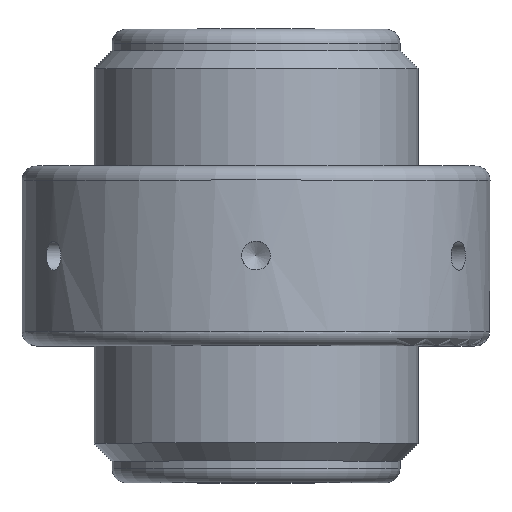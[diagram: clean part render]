
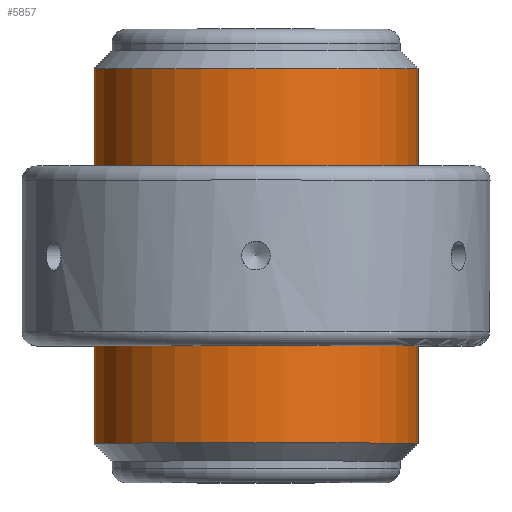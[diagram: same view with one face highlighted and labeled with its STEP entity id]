
A CAD part, top view. The second image highlights one B-rep face of the part: STEP entity #5857.
In plain terms, the highlighted cylindrical face has radius 22.5 mm (diameter 45 mm), a full revolution.
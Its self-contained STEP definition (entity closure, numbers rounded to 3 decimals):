
#39=CYLINDRICAL_SURFACE('',#6160,22.5);
#60=CIRCLE('',#6159,22.5);
#61=CIRCLE('',#6161,22.5);
#97=FACE_BOUND('',#1166,.T.);
#818=FACE_OUTER_BOUND('',#1165,.T.);
#1165=EDGE_LOOP('',(#4658));
#1166=EDGE_LOOP('',(#4659));
#2624=VERTEX_POINT('',#9124);
#2625=VERTEX_POINT('',#9127);
#3358=EDGE_CURVE('',#2624,#2624,#60,.T.);
#3359=EDGE_CURVE('',#2625,#2625,#61,.T.);
#4658=ORIENTED_EDGE('',*,*,#3358,.T.);
#4659=ORIENTED_EDGE('',*,*,#3359,.F.);
#5857=ADVANCED_FACE('',(#818,#97),#39,.T.);
#6159=AXIS2_PLACEMENT_3D('',#9125,#6675,#6676);
#6160=AXIS2_PLACEMENT_3D('',#9126,#6677,#6678);
#6161=AXIS2_PLACEMENT_3D('',#9128,#6679,#6680);
#6675=DIRECTION('center_axis',(0.,-1.,0.));
#6676=DIRECTION('ref_axis',(1.,0.,0.));
#6677=DIRECTION('center_axis',(0.,-1.,0.));
#6678=DIRECTION('ref_axis',(1.,0.,0.));
#6679=DIRECTION('center_axis',(0.,-1.,0.));
#6680=DIRECTION('ref_axis',(1.,0.,0.));
#9124=CARTESIAN_POINT('',(22.5,26.,0.));
#9125=CARTESIAN_POINT('Origin',(0.,26.,0.));
#9126=CARTESIAN_POINT('Origin',(0.,0.,0.));
#9127=CARTESIAN_POINT('',(22.5,-26.,0.));
#9128=CARTESIAN_POINT('Origin',(0.,-26.,0.));
